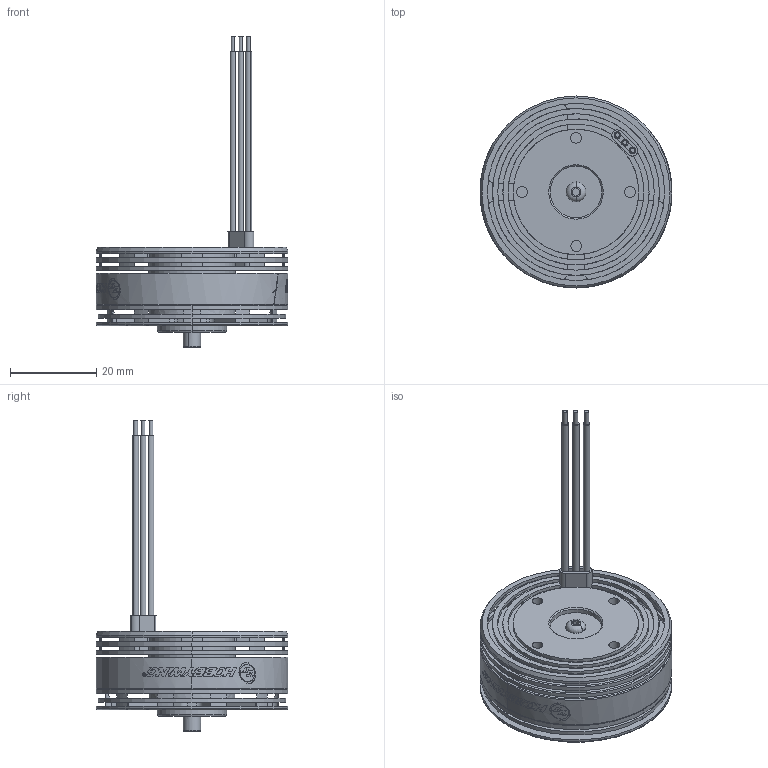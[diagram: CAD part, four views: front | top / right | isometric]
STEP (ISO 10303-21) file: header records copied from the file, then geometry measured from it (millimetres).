
FILE_DESCRIPTION (( 'STEP AP203' ), '1' );
FILE_NAME ('4006-萇儂軞蚾-HP-勤俋.STEP', '2024-01-15T14:33:00', ( '' ), ( '' ), 'SwSTEP 2.0', 'SolidWorks 2021', '' );
FILE_SCHEMA (( 'CONFIG_CONTROL_DESIGN' ));
Length unit declared in the file: millimetre
Products named in the file (1): 4006-萇儂軞蚾-HP-勤俋
Bounding box: 44.4 x 44.4 x 71.9 mm (x, y, z)
Volume: 19231.5 mm3; surface area: 14014 mm2
Topology: 5 solids, 65 shells, 2147 faces, 5810 edges, 3838 vertices
Faces by surface type: plane 1214, bspline 505, cylinder 382, cone 32, torus 14
Entity records: 77946 total; most frequent: CARTESIAN_POINT 27032, ORIENTED_EDGE 11620, DIRECTION 8758, EDGE_CURVE 5810, VERTEX_POINT 3838, LINE 3216, VECTOR 3216, AXIS2_PLACEMENT_3D 2771
